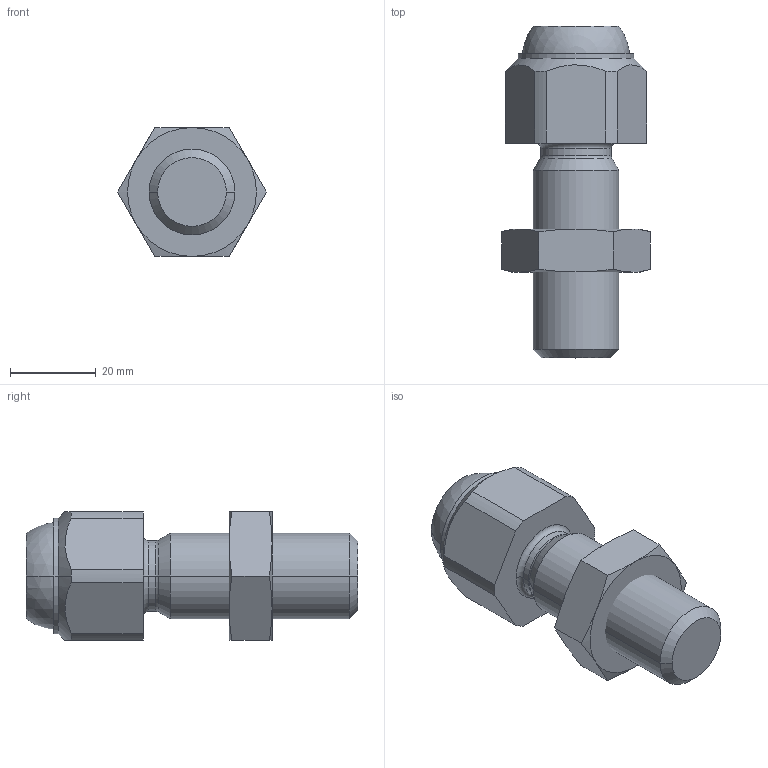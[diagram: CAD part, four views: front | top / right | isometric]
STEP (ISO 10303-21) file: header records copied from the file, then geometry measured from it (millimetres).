
FILE_DESCRIPTION (( 'STEP AP214' ), '1' );
FILE_NAME ('709.3-30-M20-R.step', '2023-01-26T10:44:59', ( '' ), ( '' ), 'SwSTEP 2.0', 'SolidWorks 2022', '' );
FILE_SCHEMA (( 'AUTOMOTIVE_DESIGN' ));
Length unit declared in the file: millimetre
Products named in the file (4): WB709.1_Gehäuse^WB709.3_30-M20; WB4035_M20-SW; 709.3-30-M20-R; WB709.1_Kugel^WB709.3_25-R
Assembly tree (3 placements, depth 2):
  709.3-30-M20-R
    WB709.1_Gehäuse^WB709.3_30-M20
    WB709.1_Kugel^WB709.3_25-R
    WB4035_M20-SW
Bounding box: 34.64 x 77.3 x 30 mm (x, y, z)
Volume: 38500 mm3; surface area: 11562.2 mm2
Topology: 3 solids, 3 shells, 61 faces, 144 edges, 87 vertices
Faces by surface type: plane 20, cone 18, cylinder 15, torus 4, sphere 4
Entity records: 2029 total; most frequent: CARTESIAN_POINT 496, DIRECTION 303, ORIENTED_EDGE 268, EDGE_CURVE 134, AXIS2_PLACEMENT_3D 132, VERTEX_POINT 81, EDGE_LOOP 65, CIRCLE 65
